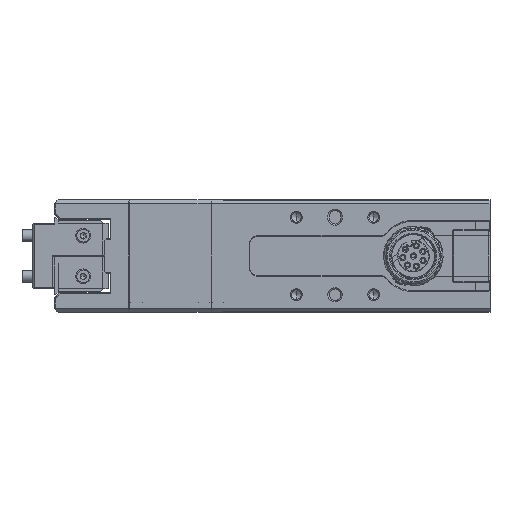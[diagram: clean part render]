
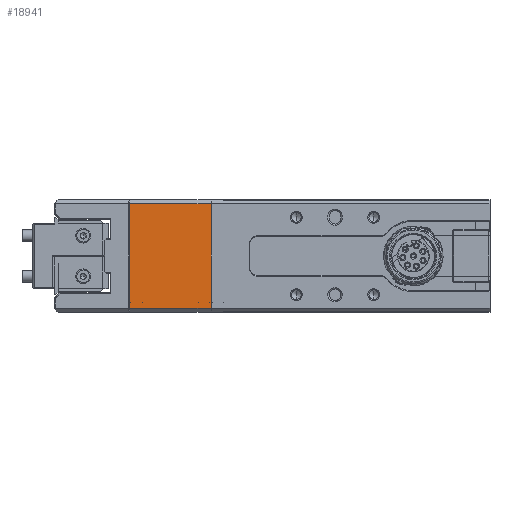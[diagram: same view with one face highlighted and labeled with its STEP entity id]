
A CAD part, left-side view. The second image highlights one B-rep face of the part: STEP entity #18941.
In plain terms, the highlighted planar face has unit normal (-1, 0, 0).
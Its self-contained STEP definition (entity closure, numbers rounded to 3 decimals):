
#41 = VECTOR ( 'NONE', #12827, 1000. ) ;
#1859 = DIRECTION ( 'NONE',  ( 0., 0., 1. ) ) ;
#2908 = ORIENTED_EDGE ( 'NONE', *, *, #91955, .F. ) ;
#3500 = VERTEX_POINT ( 'NONE', #3735 ) ;
#3735 = CARTESIAN_POINT ( 'NONE',  ( -31.94, 55.991, -234.991 ) ) ;
#5437 = EDGE_CURVE ( 'NONE', #35389, #78736, #12367, .T. ) ;
#12367 = LINE ( 'NONE', #48607, #41 ) ;
#12827 = DIRECTION ( 'NONE',  ( 0., 0., 1. ) ) ;
#12989 = LINE ( 'NONE', #19603, #46553 ) ;
#15903 = EDGE_LOOP ( 'NONE', ( #63243, #44907, #23554, #2908 ) ) ;
#18941 = ADVANCED_FACE ( 'NONE', ( #89036 ), #74506, .F. ) ;
#19603 = CARTESIAN_POINT ( 'NONE',  ( -31.94, 47.491, -234.991 ) ) ;
#20749 = EDGE_CURVE ( 'NONE', #83434, #35389, #64646, .T. ) ;
#23554 = ORIENTED_EDGE ( 'NONE', *, *, #61000, .T. ) ;
#29153 = VECTOR ( 'NONE', #1859, 1000. ) ;
#35389 = VERTEX_POINT ( 'NONE', #79702 ) ;
#41645 = AXIS2_PLACEMENT_3D ( 'NONE', #46207, #83342, #74951 ) ;
#42483 = CARTESIAN_POINT ( 'NONE',  ( -31.94, 47.491, -261.991 ) ) ;
#44907 = ORIENTED_EDGE ( 'NONE', *, *, #5437, .T. ) ;
#46207 = CARTESIAN_POINT ( 'NONE',  ( -31.94, 47.491, -261.491 ) ) ;
#46553 = VECTOR ( 'NONE', #64287, 1000. ) ;
#48607 = CARTESIAN_POINT ( 'NONE',  ( -31.94, 34.991, -261.491 ) ) ;
#49599 = DIRECTION ( 'NONE',  ( 0., -1., 0. ) ) ;
#59435 = CARTESIAN_POINT ( 'NONE',  ( -31.94, 55.991, -261.991 ) ) ;
#61000 = EDGE_CURVE ( 'NONE', #78736, #3500, #12989, .T. ) ;
#63243 = ORIENTED_EDGE ( 'NONE', *, *, #20749, .T. ) ;
#64287 = DIRECTION ( 'NONE',  ( 0., 1., 0. ) ) ;
#64646 = LINE ( 'NONE', #42483, #79664 ) ;
#66207 = CARTESIAN_POINT ( 'NONE',  ( -31.94, 34.991, -234.991 ) ) ;
#66366 = CARTESIAN_POINT ( 'NONE',  ( -31.94, 55.991, -260.491 ) ) ;
#71562 = LINE ( 'NONE', #66366, #29153 ) ;
#74506 = PLANE ( 'NONE',  #41645 ) ;
#74951 = DIRECTION ( 'NONE',  ( 0., 0., -1. ) ) ;
#78736 = VERTEX_POINT ( 'NONE', #66207 ) ;
#79664 = VECTOR ( 'NONE', #49599, 1000. ) ;
#79702 = CARTESIAN_POINT ( 'NONE',  ( -31.94, 34.991, -261.991 ) ) ;
#83342 = DIRECTION ( 'NONE',  ( 1., 0., 0. ) ) ;
#83434 = VERTEX_POINT ( 'NONE', #59435 ) ;
#89036 = FACE_OUTER_BOUND ( 'NONE', #15903, .T. ) ;
#91955 = EDGE_CURVE ( 'NONE', #83434, #3500, #71562, .T. ) ;
